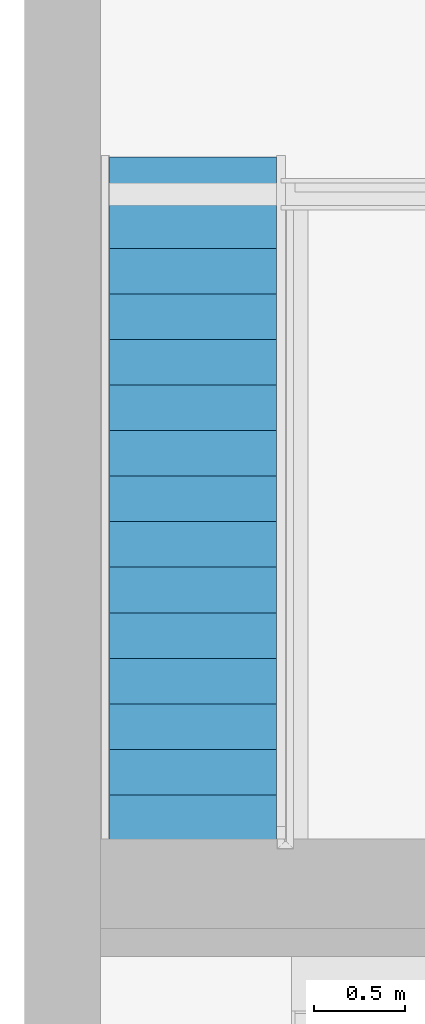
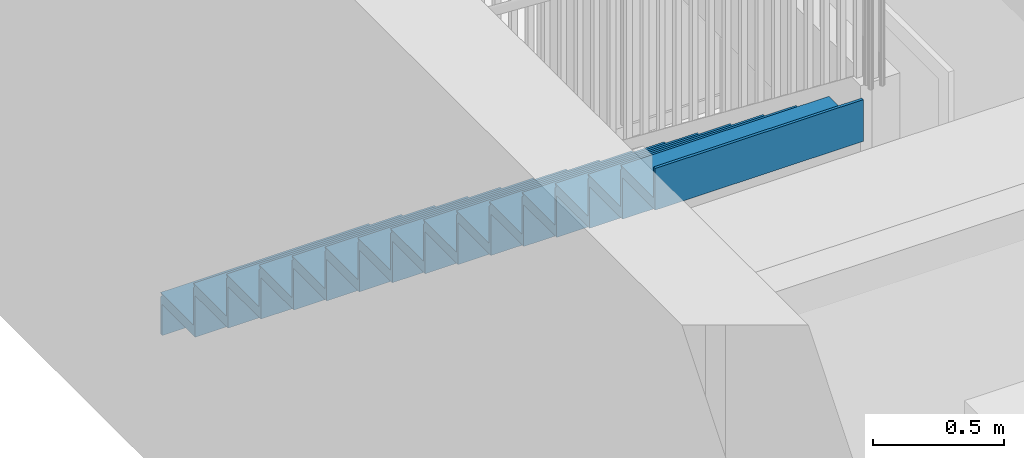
# One storey, part 5 of 18: 1 stair flight, 1 element without a shape of its own.
"""IFC4 building model written with IfcOpenShell, lengths in metres."""

from ifc_helpers import new_model, entity, si_unit, converted_unit, frame, frame_2d, origin, origin_2d_with_axis, place, context, project, spatial, polyline, circle_curve, parameter, trimmed, segment, composite_curve, rectangle, outline, extrude, element, aggregate, save


model = new_model("IFC4")

# Units and contexts
model_context = context("Model", 3, precision=1e-09, world=origin())
plan_context = context("Plan", 3, precision=1e-09, world=origin())
ifc_project = project(units=[si_unit("LENGTHUNIT", "METRE"), si_unit("AREAUNIT", "SQUARE_METRE"), si_unit("VOLUMEUNIT", "CUBIC_METRE"), converted_unit("PLANEANGLEUNIT", "DEGREE", entity("IfcRatioMeasure", 0.01745329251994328), si_unit("PLANEANGLEUNIT", "RADIAN"), dimensions=[0, 0, 0, 0, 0, 0, 0]), si_unit("TIMEUNIT", "SECOND")], contexts=[model_context, plan_context])

# Site, building, storey
site_placement = place(None, origin())
site = spatial("IfcSite", under=ifc_project, at=site_placement, Name="Default", CompositionType="ELEMENT")
building_placement = place(site_placement, origin())
building = spatial("IfcBuilding", under=site, at=building_placement, CompositionType="ELEMENT")
storey_placement = place(building_placement, origin())
storey = spatial("IfcBuildingStorey", under=building, at=storey_placement, Name="Level 1", CompositionType="ELEMENT", Elevation=0.0)

# Stair, stair flight
stair_placement = place(storey_placement, origin())
stair = element("IfcStair", 1, at=stair_placement, inside=storey, Name="Stair:Residential - 200mm Max Riser 250mm Tread", ObjectType="Stair:Residential - 200mm Max Riser 250mm Tread")
stair_flight_placement = place(storey_placement, origin())
stair_flight = element("IfcStairFlight", 2, at=stair_flight_placement, Name="Stair:Residential - 200mm Max Riser 250mm Tread:1", ObjectType="Stair:Residential - 200mm Max Riser 250mm Tread", NumberOfTreads=15, RiserHeight=0.6356627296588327, TreadLength=0.8202099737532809, context=model_context, shape_type="SweptSolid", body=[
    extrude(outline(composite_curve([segment(polyline([(-0.02399999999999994, -0.1499999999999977), (0.02600000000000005, -0.1499999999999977)]), True, "CONTINUOUS"), segment(polyline([(0.02600000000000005, -0.1499999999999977), (0.02600000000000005, 0.1000000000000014)]), True, "CONTINUOUS"), segment(polyline([(0.02600000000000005, 0.1000000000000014), (-0.004000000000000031, 0.1000000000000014)]), True, "CONTINUOUS"), segment(trimmed(circle_curve(frame_2d((-0.01399999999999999, 0.1000000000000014), x_axis=(0.0, -1.0)), 0.009999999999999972), [parameter(92.33515524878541)], [parameter(92.33515524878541)], True, "PARAMETER"), True, "CONTINUOUS"), segment(polyline([(-0.02399999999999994, 0.1000000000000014), (-0.02399999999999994, -0.1499999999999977)]), True, "CONTINUOUS")], self_intersect=False)), frame((0.4670000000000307, -6.08499999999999, 0.1697500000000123), z_axis=(1.0, 0.0, 0.0), x_axis=(0.0, 0.0, -1.0)), (0.0, 0.0, 1.0), 0.9143999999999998),
    extrude(outline(composite_curve([segment(polyline([(-0.02399999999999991, -0.1499999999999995), (0.02600000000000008, -0.1499999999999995)]), True, "CONTINUOUS"), segment(polyline([(0.02600000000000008, -0.1499999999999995), (0.02600000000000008, 0.1000000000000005)]), True, "CONTINUOUS"), segment(polyline([(0.02600000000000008, 0.1000000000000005), (-0.004000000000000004, 0.1000000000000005)]), True, "CONTINUOUS"), segment(trimmed(circle_curve(frame_2d((-0.01399999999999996, 0.1000000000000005), x_axis=(0.0, -1.0)), 0.009999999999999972), [parameter(92.33515524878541)], [parameter(92.33515524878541)], True, "PARAMETER"), True, "CONTINUOUS"), segment(polyline([(-0.02399999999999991, 0.1000000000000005), (-0.02399999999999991, -0.1499999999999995)]), True, "CONTINUOUS")], self_intersect=False)), frame((0.4670000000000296, -6.334999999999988, 0.3635000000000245), z_axis=(1.0, 0.0, 0.0), x_axis=(0.0, 0.0, -1.0)), (0.0, 0.0, 1.0), 0.9143999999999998),
    extrude(outline(composite_curve([segment(polyline([(-0.02400000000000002, -0.1499999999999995), (0.02600000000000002, -0.1499999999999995)]), True, "CONTINUOUS"), segment(polyline([(0.02600000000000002, -0.1499999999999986), (0.02600000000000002, 0.1000000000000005)]), True, "CONTINUOUS"), segment(polyline([(0.02600000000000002, 0.09999999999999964), (-0.004000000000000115, 0.09999999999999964)]), True, "CONTINUOUS"), segment(trimmed(circle_curve(frame_2d((-0.01400000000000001, 0.09999999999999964), x_axis=(0.0, -1.0)), 0.009999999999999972), [parameter(92.33515524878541)], [parameter(92.33515524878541)], True, "PARAMETER"), True, "CONTINUOUS"), segment(polyline([(-0.02400000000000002, 0.1000000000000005), (-0.02400000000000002, -0.1499999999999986)]), True, "CONTINUOUS")], self_intersect=False)), frame((0.4670000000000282, -6.584999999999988, 0.5572500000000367), z_axis=(1.0, 0.0, 0.0), x_axis=(0.0, 0.0, -1.0)), (0.0, 0.0, 1.0), 0.9143999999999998),
    extrude(outline(composite_curve([segment(polyline([(-0.02399999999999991, -0.1499999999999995), (0.02600000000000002, -0.1499999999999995)]), True, "CONTINUOUS"), segment(polyline([(0.02600000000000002, -0.1499999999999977), (0.02600000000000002, 0.1000000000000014)]), True, "CONTINUOUS"), segment(polyline([(0.02600000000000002, 0.1000000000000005), (-0.004000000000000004, 0.1000000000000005)]), True, "CONTINUOUS"), segment(trimmed(circle_curve(frame_2d((-0.0139999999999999, 0.1000000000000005), x_axis=(0.0, -1.0)), 0.009999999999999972), [parameter(92.33515524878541)], [parameter(92.33515524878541)], True, "PARAMETER"), True, "CONTINUOUS"), segment(polyline([(-0.02399999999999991, 0.1000000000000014), (-0.02399999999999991, -0.1499999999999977)]), True, "CONTINUOUS")], self_intersect=False)), frame((0.4670000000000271, -6.834999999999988, 0.751000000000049), z_axis=(1.0, 0.0, 0.0), x_axis=(0.0, 0.0, -1.0)), (0.0, 0.0, 1.0), 0.9143999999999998),
    extrude(outline(composite_curve([segment(polyline([(-0.02399999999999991, -0.1499999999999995), (0.02600000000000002, -0.1499999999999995)]), True, "CONTINUOUS"), segment(polyline([(0.02600000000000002, -0.1499999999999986), (0.02600000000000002, 0.1000000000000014)]), True, "CONTINUOUS"), segment(polyline([(0.02600000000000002, 0.1000000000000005), (-0.004000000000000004, 0.1000000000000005)]), True, "CONTINUOUS"), segment(trimmed(circle_curve(frame_2d((-0.0139999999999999, 0.1000000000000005), x_axis=(0.0, -1.0)), 0.009999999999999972), [parameter(92.33515524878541)], [parameter(92.33515524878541)], True, "PARAMETER"), True, "CONTINUOUS"), segment(polyline([(-0.02399999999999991, 0.1000000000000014), (-0.02399999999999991, -0.1499999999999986)]), True, "CONTINUOUS")], self_intersect=False)), frame((0.4670000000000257, -7.084999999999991, 0.9447500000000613), z_axis=(1.0, 0.0, 0.0), x_axis=(0.0, 0.0, -1.0)), (0.0, 0.0, 1.0), 0.9143999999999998),
    extrude(outline(composite_curve([segment(polyline([(-0.02400000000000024, -0.1499999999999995), (0.0259999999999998, -0.1499999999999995)]), True, "CONTINUOUS"), segment(polyline([(0.0259999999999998, -0.1499999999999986), (0.0259999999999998, 0.1000000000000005)]), True, "CONTINUOUS"), segment(polyline([(0.0259999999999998, 0.09999999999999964), (-0.004000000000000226, 0.09999999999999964)]), True, "CONTINUOUS"), segment(trimmed(circle_curve(frame_2d((-0.01400000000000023, 0.09999999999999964), x_axis=(0.0, -1.0)), 0.009999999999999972), [parameter(92.33515524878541)], [parameter(92.33515524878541)], True, "PARAMETER"), True, "CONTINUOUS"), segment(polyline([(-0.02400000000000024, 0.1000000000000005), (-0.02400000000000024, -0.1499999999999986)]), True, "CONTINUOUS")], self_intersect=False)), frame((0.4670000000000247, -7.33499999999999, 1.138500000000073), z_axis=(1.0, 0.0, 0.0), x_axis=(0.0, 0.0, -1.0)), (0.0, 0.0, 1.0), 0.9143999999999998),
    extrude(outline(composite_curve([segment(polyline([(-0.02400000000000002, -0.1499999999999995), (0.02600000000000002, -0.1499999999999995)]), True, "CONTINUOUS"), segment(polyline([(0.02600000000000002, -0.1499999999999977), (0.02600000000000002, 0.1000000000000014)]), True, "CONTINUOUS"), segment(polyline([(0.02600000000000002, 0.1000000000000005), (-0.003999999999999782, 0.1000000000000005)]), True, "CONTINUOUS"), segment(trimmed(circle_curve(frame_2d((-0.01399999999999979, 0.1000000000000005), x_axis=(0.0, -1.0)), 0.009999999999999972), [parameter(92.33515524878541)], [parameter(92.33515524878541)], True, "PARAMETER"), True, "CONTINUOUS"), segment(polyline([(-0.02400000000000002, 0.1000000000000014), (-0.02400000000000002, -0.1499999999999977)]), True, "CONTINUOUS")], self_intersect=False)), frame((0.4670000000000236, -7.58499999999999, 1.332250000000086), z_axis=(1.0, 0.0, 0.0), x_axis=(0.0, 0.0, -1.0)), (0.0, 0.0, 1.0), 0.9143999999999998),
    extrude(outline(composite_curve([segment(polyline([(-0.02399999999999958, -0.1499999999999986), (0.02600000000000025, -0.1499999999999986)]), True, "CONTINUOUS"), segment(polyline([(0.02600000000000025, -0.1499999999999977), (0.02600000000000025, 0.1000000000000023)]), True, "CONTINUOUS"), segment(polyline([(0.02600000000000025, 0.1000000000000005), (-0.00399999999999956, 0.1000000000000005)]), True, "CONTINUOUS"), segment(trimmed(circle_curve(frame_2d((-0.01399999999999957, 0.1000000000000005), x_axis=(0.0, -1.0)), 0.009999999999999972), [parameter(92.33515524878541)], [parameter(92.33515524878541)], True, "PARAMETER"), True, "CONTINUOUS"), segment(polyline([(-0.02399999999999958, 0.1000000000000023), (-0.02399999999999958, -0.1499999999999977)]), True, "CONTINUOUS")], self_intersect=False)), frame((0.4670000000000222, -7.83499999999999, 1.526000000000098), z_axis=(1.0, 0.0, 0.0), x_axis=(0.0, 0.0, -1.0)), (0.0, 0.0, 1.0), 0.9143999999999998),
    extrude(outline(composite_curve([segment(polyline([(-0.02399999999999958, -0.1500000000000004), (0.02600000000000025, -0.1500000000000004)]), True, "CONTINUOUS"), segment(polyline([(0.02600000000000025, -0.1499999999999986), (0.02600000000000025, 0.1000000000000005)]), True, "CONTINUOUS"), segment(polyline([(0.02600000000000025, 0.09999999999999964), (-0.00399999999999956, 0.09999999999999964)]), True, "CONTINUOUS"), segment(trimmed(circle_curve(frame_2d((-0.01399999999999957, 0.09999999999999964), x_axis=(0.0, -1.0)), 0.009999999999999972), [parameter(92.33515524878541)], [parameter(92.33515524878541)], True, "PARAMETER"), True, "CONTINUOUS"), segment(polyline([(-0.02399999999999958, 0.1000000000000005), (-0.02399999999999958, -0.1499999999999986)]), True, "CONTINUOUS")], self_intersect=False)), frame((0.4670000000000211, -8.084999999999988, 1.719750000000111), z_axis=(1.0, 0.0, 0.0), x_axis=(0.0, 0.0, -1.0)), (0.0, 0.0, 1.0), 0.9143999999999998),
    extrude(outline(composite_curve([segment(polyline([(-0.02399999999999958, -0.1499999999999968), (0.02600000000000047, -0.1499999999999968)]), True, "CONTINUOUS"), segment(polyline([(0.02600000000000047, -0.1499999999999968), (0.02600000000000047, 0.1000000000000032)]), True, "CONTINUOUS"), segment(polyline([(0.02600000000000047, 0.1000000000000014), (-0.00399999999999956, 0.1000000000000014)]), True, "CONTINUOUS"), segment(trimmed(circle_curve(frame_2d((-0.01399999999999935, 0.1000000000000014), x_axis=(0.0, -1.0)), 0.009999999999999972), [parameter(92.33515524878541)], [parameter(92.33515524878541)], True, "PARAMETER"), True, "CONTINUOUS"), segment(polyline([(-0.02399999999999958, 0.1000000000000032), (-0.02399999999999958, -0.1499999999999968)]), True, "CONTINUOUS")], self_intersect=False)), frame((0.4670000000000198, -8.33499999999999, 1.913500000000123), z_axis=(1.0, 0.0, 0.0), x_axis=(0.0, 0.0, -1.0)), (0.0, 0.0, 1.0), 0.9143999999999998),
    extrude(outline(composite_curve([segment(polyline([(-0.02399999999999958, -0.1500000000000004), (0.02600000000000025, -0.1500000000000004)]), True, "CONTINUOUS"), segment(polyline([(0.02600000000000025, -0.1499999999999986), (0.02600000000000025, 0.1000000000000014)]), True, "CONTINUOUS"), segment(polyline([(0.02600000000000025, 0.09999999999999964), (-0.00399999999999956, 0.09999999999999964)]), True, "CONTINUOUS"), segment(trimmed(circle_curve(frame_2d((-0.01399999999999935, 0.09999999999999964), x_axis=(0.0, -1.0)), 0.009999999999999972), [parameter(92.33515524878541)], [parameter(92.33515524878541)], True, "PARAMETER"), True, "CONTINUOUS"), segment(polyline([(-0.02399999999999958, 0.1000000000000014), (-0.02399999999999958, -0.1499999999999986)]), True, "CONTINUOUS")], self_intersect=False)), frame((0.4670000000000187, -8.584999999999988, 2.107250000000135), z_axis=(1.0, 0.0, 0.0), x_axis=(0.0, 0.0, -1.0)), (0.0, 0.0, 1.0), 0.9143999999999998),
    extrude(outline(composite_curve([segment(polyline([(-0.02400000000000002, -0.1499999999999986), (0.02600000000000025, -0.1499999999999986)]), True, "CONTINUOUS"), segment(polyline([(0.02600000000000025, -0.1499999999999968), (0.02600000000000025, 0.1000000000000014)]), True, "CONTINUOUS"), segment(polyline([(0.02600000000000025, 0.09999999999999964), (-0.004000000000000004, 0.09999999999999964)]), True, "CONTINUOUS"), segment(trimmed(circle_curve(frame_2d((-0.01399999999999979, 0.09999999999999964), x_axis=(0.0, -1.0)), 0.009999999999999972), [parameter(92.33515524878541)], [parameter(92.33515524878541)], True, "PARAMETER"), True, "CONTINUOUS"), segment(polyline([(-0.02400000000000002, 0.1000000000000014), (-0.02400000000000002, -0.1499999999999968)]), True, "CONTINUOUS")], self_intersect=False)), frame((0.4670000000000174, -8.834999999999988, 2.301000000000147), z_axis=(1.0, 0.0, 0.0), x_axis=(0.0, 0.0, -1.0)), (0.0, 0.0, 1.0), 0.9143999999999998),
    extrude(outline(composite_curve([segment(polyline([(-0.02400000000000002, -0.1500000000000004), (0.0259999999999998, -0.1500000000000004)]), True, "CONTINUOUS"), segment(polyline([(0.0259999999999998, -0.1499999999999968), (0.0259999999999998, 0.1000000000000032)]), True, "CONTINUOUS"), segment(polyline([(0.0259999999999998, 0.09999999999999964), (-0.004000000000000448, 0.09999999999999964)]), True, "CONTINUOUS"), segment(trimmed(circle_curve(frame_2d((-0.01399999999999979, 0.09999999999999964), x_axis=(0.0, -1.0)), 0.009999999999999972), [parameter(92.33515524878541)], [parameter(92.33515524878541)], True, "PARAMETER"), True, "CONTINUOUS"), segment(polyline([(-0.02400000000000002, 0.1000000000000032), (-0.02400000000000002, -0.1499999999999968)]), True, "CONTINUOUS")], self_intersect=False)), frame((0.4670000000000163, -9.084999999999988, 2.494750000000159), z_axis=(1.0, 0.0, 0.0), x_axis=(0.0, 0.0, -1.0)), (0.0, 0.0, 1.0), 0.9143999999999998),
    extrude(outline(composite_curve([segment(polyline([(-0.02400000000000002, -0.1500000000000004), (0.02600000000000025, -0.1500000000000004)]), True, "CONTINUOUS"), segment(polyline([(0.02600000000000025, -0.1499999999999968), (0.02600000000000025, 0.1000000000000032)]), True, "CONTINUOUS"), segment(polyline([(0.02600000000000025, 0.09999999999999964), (-0.004000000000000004, 0.09999999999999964)]), True, "CONTINUOUS"), segment(trimmed(circle_curve(frame_2d((-0.01399999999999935, 0.09999999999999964), x_axis=(0.0, -1.0)), 0.009999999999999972), [parameter(92.33515524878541)], [parameter(92.33515524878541)], True, "PARAMETER"), True, "CONTINUOUS"), segment(polyline([(-0.02400000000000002, 0.1000000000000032), (-0.02400000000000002, -0.1499999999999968)]), True, "CONTINUOUS")], self_intersect=False)), frame((0.4670000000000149, -9.334999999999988, 2.688500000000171), z_axis=(1.0, 0.0, 0.0), x_axis=(0.0, 0.0, -1.0)), (0.0, 0.0, 1.0), 0.9143999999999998),
    extrude(outline(composite_curve([segment(polyline([(-0.02400000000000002, -0.1500000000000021), (0.0259999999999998, -0.1500000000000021)]), True, "CONTINUOUS"), segment(polyline([(0.0259999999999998, -0.1499999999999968), (0.0259999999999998, 0.1000000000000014)]), True, "CONTINUOUS"), segment(polyline([(0.0259999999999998, 0.09999999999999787), (-0.004000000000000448, 0.09999999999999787)]), True, "CONTINUOUS"), segment(trimmed(circle_curve(frame_2d((-0.01399999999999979, 0.09999999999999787), x_axis=(0.0, -1.0)), 0.009999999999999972), [parameter(92.33515524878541)], [parameter(92.33515524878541)], True, "PARAMETER"), True, "CONTINUOUS"), segment(polyline([(-0.02400000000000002, 0.1000000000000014), (-0.02400000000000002, -0.1499999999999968)]), True, "CONTINUOUS")], self_intersect=False)), frame((0.4670000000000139, -9.584999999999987, 2.882250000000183), z_axis=(1.0, 0.0, 0.0), x_axis=(0.0, 0.0, -1.0)), (0.0, 0.0, 1.0), 0.9143999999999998),
    extrude(rectangle(XDim=0.9144, YDim=0.01250000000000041, at=origin_2d_with_axis()), frame((0.9242000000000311, -5.991249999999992, 0.0)), (0.0, 0.0, 1.0), 0.1437500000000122),
    extrude(rectangle(XDim=0.9143999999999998, YDim=0.01250000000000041, at=origin_2d_with_axis()), frame((0.92420000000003, -6.241249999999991, 0.1437500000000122)), (0.0, 0.0, 1.0), 0.1937500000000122),
    extrude(rectangle(XDim=0.9143999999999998, YDim=0.01250000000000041, at=origin_2d_with_axis()), frame((0.9242000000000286, -6.49124999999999, 0.3375000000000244)), (0.0, 0.0, 1.0), 0.1937500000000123),
    extrude(rectangle(XDim=0.9143999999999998, YDim=0.01250000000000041, at=origin_2d_with_axis()), frame((0.9242000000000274, -6.74124999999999, 0.5312500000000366)), (0.0, 0.0, 1.0), 0.1937500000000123),
    extrude(rectangle(XDim=0.9143999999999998, YDim=0.01250000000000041, at=origin_2d_with_axis()), frame((0.924200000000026, -6.991249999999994, 0.7250000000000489)), (0.0, 0.0, 1.0), 0.1937500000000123),
    extrude(rectangle(XDim=0.9143999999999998, YDim=0.01250000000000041, at=origin_2d_with_axis()), frame((0.9242000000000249, -7.241249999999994, 0.918750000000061)), (0.0, 0.0, 1.0), 0.1937500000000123),
    extrude(rectangle(XDim=0.9143999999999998, YDim=0.01250000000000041, at=origin_2d_with_axis()), frame((0.9242000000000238, -7.491249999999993, 1.112500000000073)), (0.0, 0.0, 1.0), 0.1937500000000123),
    extrude(rectangle(XDim=0.9143999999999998, YDim=0.01250000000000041, at=origin_2d_with_axis()), frame((0.9242000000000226, -7.741249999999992, 1.306250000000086)), (0.0, 0.0, 1.0), 0.1937500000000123),
    extrude(rectangle(XDim=0.9143999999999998, YDim=0.01250000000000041, at=origin_2d_with_axis()), frame((0.9242000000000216, -7.991249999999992, 1.500000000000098)), (0.0, 0.0, 1.0), 0.1937500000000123),
    extrude(rectangle(XDim=0.9143999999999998, YDim=0.01250000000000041, at=origin_2d_with_axis()), frame((0.9242000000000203, -8.241249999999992, 1.69375000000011)), (0.0, 0.0, 1.0), 0.1937500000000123),
    extrude(rectangle(XDim=0.9143999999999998, YDim=0.01250000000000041, at=origin_2d_with_axis()), frame((0.9242000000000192, -8.491249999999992, 1.887500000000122)), (0.0, 0.0, 1.0), 0.1937500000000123),
    extrude(rectangle(XDim=0.9143999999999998, YDim=0.01250000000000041, at=origin_2d_with_axis()), frame((0.9242000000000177, -8.741249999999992, 2.081250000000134)), (0.0, 0.0, 1.0), 0.1937500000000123),
    extrude(rectangle(XDim=0.9143999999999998, YDim=0.01250000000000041, at=origin_2d_with_axis()), frame((0.9242000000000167, -8.991249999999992, 2.275000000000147)), (0.0, 0.0, 1.0), 0.1937500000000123),
    extrude(rectangle(XDim=0.9143999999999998, YDim=0.01250000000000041, at=origin_2d_with_axis()), frame((0.9242000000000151, -9.241249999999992, 2.468750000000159)), (0.0, 0.0, 1.0), 0.1937500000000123),
    extrude(rectangle(XDim=0.9144, YDim=0.01250000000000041, at=origin_2d_with_axis()), frame((0.924200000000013, -9.74124999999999, 2.856250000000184)), (0.0, 0.0, 1.0), 0.1937500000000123),
    extrude(rectangle(XDim=0.9143999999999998, YDim=0.01250000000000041, at=origin_2d_with_axis()), frame((0.924200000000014, -9.491249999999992, 2.662500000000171)), (0.0, 0.0, 1.0), 0.1937500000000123),
])
aggregate(stair, [stair_flight])

save(model, "model.ifc")
